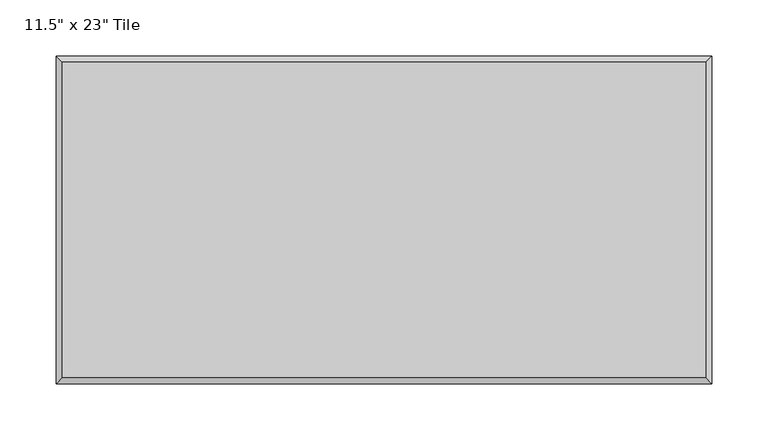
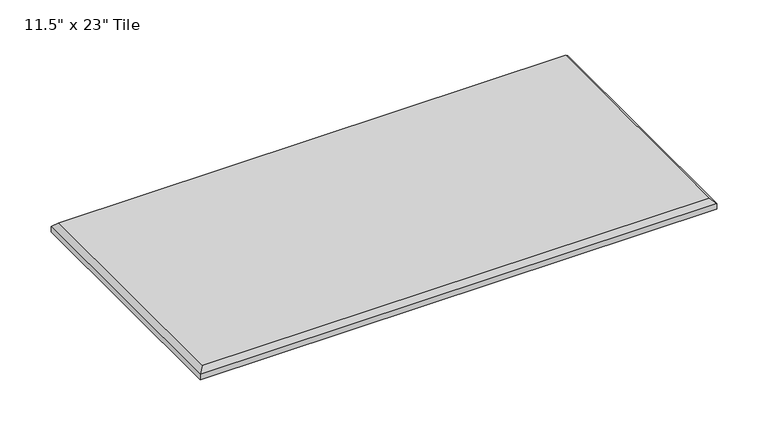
"""IFC4 building model written with IfcOpenShell, lengths in millimetres: proxy geometry."""

from ifc_helpers import new_model, si_unit, origin, place, context, project, spatial, faceted_brep, source, transform, mapped, element, save


def proxy_581fb320(model_context):
    return source(origin(), model_context, "Body", "Brep", [
        faceted_brep([(845.3945313, -140.5445313, 12.0054687), (845.3945313, 140.5445312, 12.0054687), (272.2054688, 140.5445312, 12.0054687), (272.2054688, -140.5445313, 12.0054687), (850.9, 146.05, 0.0), (850.9, -146.05, 0.0), (266.7, -146.05, 0.0), (266.7, 146.05, 0.0), (266.7, 146.05, 6.5), (850.9, 146.05, 6.5), (266.7, -146.05, 6.5), (850.9, -146.05, 6.5)], [[[0, 1, 2, 3]], [[4, 5, 6, 7]], [[4, 7, 8, 9]], [[7, 6, 10, 8]], [[6, 5, 11, 10]], [[5, 4, 9, 11]], [[9, 1, 0, 11]], [[1, 9, 8, 2]], [[2, 8, 10, 3]], [[11, 0, 3, 10]]]),
    ])


if __name__ == "__main__":
    model = new_model("IFC4")
    model_context = context("Model", 3, world=origin())
    ifc_project = project(units=[si_unit("LENGTHUNIT", "METRE", prefix="MILLI")], contexts=[model_context])
    site = spatial("IfcSite", under=ifc_project)
    building = spatial("IfcBuilding", under=site)
    placement = place(None, origin())
    proxy_shape = proxy_581fb320(model_context)
    element("IfcBuildingElementProxy", 1, Name="Wall-Panel-Kirei-EchoPanel-Echotile_Sync : 11.5\" x 23\" Tile", ObjectType="Wall-Panel-Kirei-EchoPanel-Echotile_Sync : 11.5\" x 23\" Tile", at=placement, inside=building, context=model_context, shape_type="MappedRepresentation", body=[
        mapped(proxy_shape, transform((0.0, 0.0, 0.0), x_axis=(1.0, 0.0, 0.0), y_axis=(0.0, 1.0, 0.0), z_axis=(0.0, 0.0, 1.0))),
    ])
    save(model, "model.ifc")
